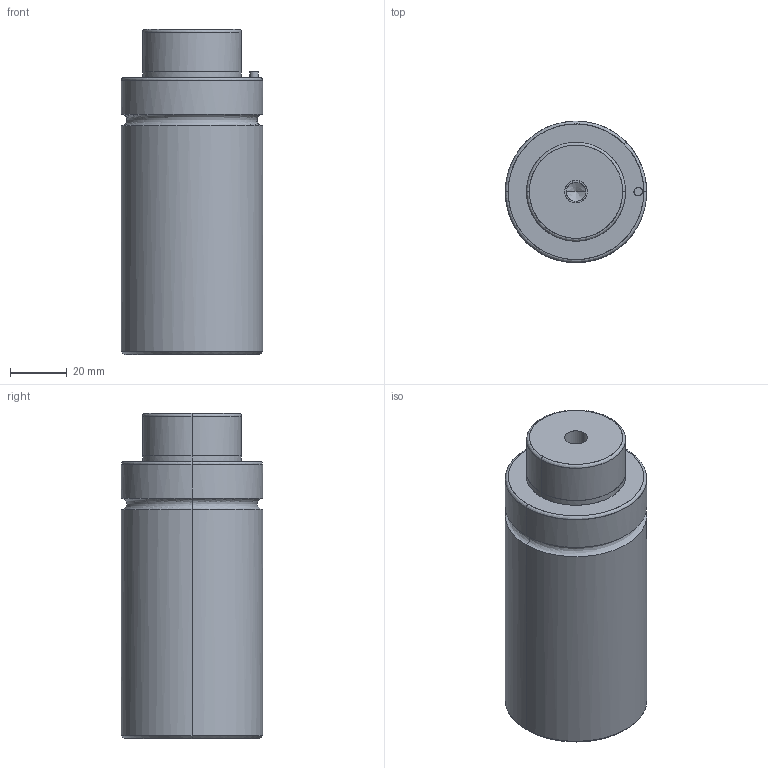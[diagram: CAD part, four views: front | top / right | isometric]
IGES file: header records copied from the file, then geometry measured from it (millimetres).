
Global section: file name: E:\UnigraphicsGraphicData\MISUMI_PRESS-PARTS\IGES\3d_gsm50-15_03946_r00.igs; native system: NX V5.0; preprocessor: UGS NX IGES V5.0; author: MISUMI; date: 20110105.160815; units: millimetre
Bounding box: 50 x 49.96 x 115 mm (x, y, z)
Surface area: 22752.4 mm2 (no closed solid volume)
Topology: 0 solids, 0 shells, 50 faces, 344 edges, 336 vertices
Faces by surface type: bspline 50
